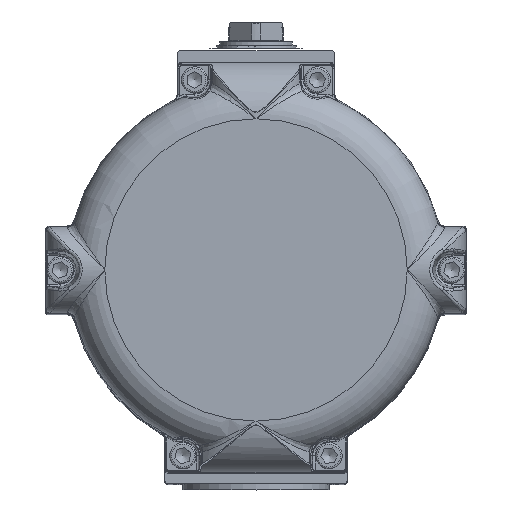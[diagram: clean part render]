
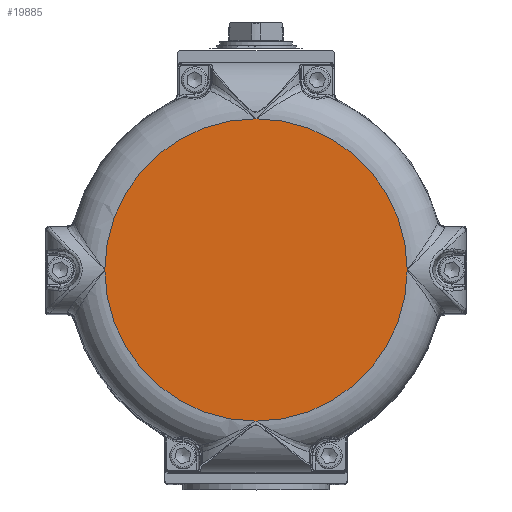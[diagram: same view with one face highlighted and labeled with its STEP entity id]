
A CAD part, top view. The second image highlights one B-rep face of the part: STEP entity #19885.
In plain terms, the highlighted planar face has unit normal (0, 0, 1).
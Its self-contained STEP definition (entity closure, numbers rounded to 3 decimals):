
#12731=CARTESIAN_POINT('',(0.,103.409,246.9));
#12732=VERTEX_POINT('',#12731);
#12752=CARTESIAN_POINT('',(103.409,0.,246.9));
#12753=VERTEX_POINT('',#12752);
#12754=CARTESIAN_POINT('',(0.,0.,246.9));
#12755=DIRECTION('',(0.0,0.0,1.0));
#12756=DIRECTION('',(-1.0,0.0,0.0));
#12757=AXIS2_PLACEMENT_3D('',#12754,#12755,#12756);
#12758=CIRCLE('',#12757,103.409);
#12759=EDGE_CURVE('',#12753,#12732,#12758,.T.);
#13171=CARTESIAN_POINT('',(0.,-103.409,246.9));
#13172=VERTEX_POINT('',#13171);
#13173=CARTESIAN_POINT('',(0.,0.,246.9));
#13174=DIRECTION('',(0.0,0.0,1.0));
#13175=DIRECTION('',(-1.0,0.0,0.0));
#13176=AXIS2_PLACEMENT_3D('',#13173,#13174,#13175);
#13177=CIRCLE('',#13176,103.409);
#13178=EDGE_CURVE('',#13172,#12753,#13177,.T.);
#14950=CARTESIAN_POINT('',(-103.409,0.,246.9));
#14951=VERTEX_POINT('',#14950);
#14952=CARTESIAN_POINT('',(0.,0.,246.9));
#14953=DIRECTION('',(0.0,0.0,1.0));
#14954=DIRECTION('',(-1.0,0.0,0.0));
#14955=AXIS2_PLACEMENT_3D('',#14952,#14953,#14954);
#14956=CIRCLE('',#14955,103.409);
#14957=EDGE_CURVE('',#12732,#14951,#14956,.T.);
#18775=CARTESIAN_POINT('',(0.,0.,246.9));
#18776=DIRECTION('',(0.0,0.0,1.0));
#18777=DIRECTION('',(-1.0,0.0,0.0));
#18778=AXIS2_PLACEMENT_3D('',#18775,#18776,#18777);
#18779=CIRCLE('',#18778,103.409);
#18780=EDGE_CURVE('',#14951,#13172,#18779,.T.);
#19874=CARTESIAN_POINT('',(-51.704,0.,246.9));
#19875=DIRECTION('',(0.0,0.0,1.0));
#19876=DIRECTION('',(0.0,-1.0,0.0));
#19877=AXIS2_PLACEMENT_3D('',#19874,#19875,#19876);
#19878=PLANE('',#19877);
#19879=ORIENTED_EDGE('',*,*,#12759,.T.);
#19880=ORIENTED_EDGE('',*,*,#14957,.T.);
#19881=ORIENTED_EDGE('',*,*,#18780,.T.);
#19882=ORIENTED_EDGE('',*,*,#13178,.T.);
#19883=EDGE_LOOP('',(#19879,#19880,#19881,#19882));
#19884=FACE_OUTER_BOUND('',#19883,.T.);
#19885=ADVANCED_FACE('',(#19884),#19878,.T.);
